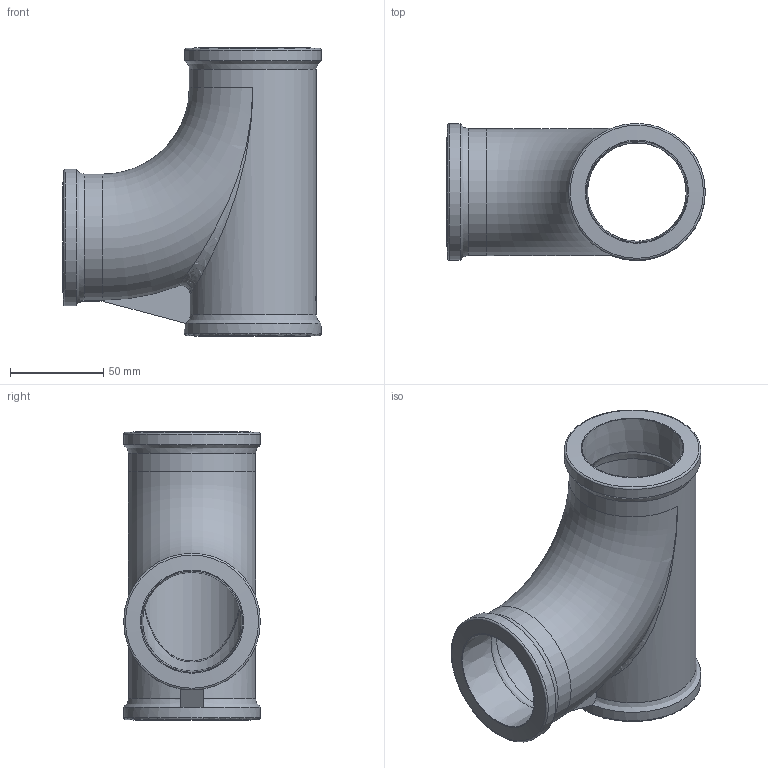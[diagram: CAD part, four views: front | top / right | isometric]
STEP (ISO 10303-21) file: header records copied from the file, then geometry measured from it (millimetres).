
FILE_DESCRIPTION((''),'2;1');
FILE_NAME('P:\Fastrack\53909_CRANE\Crane\Fig.199 Pitcher Tee\New 2.00 inch\199-2.00.stp','2009-09-17T10:46:42',('btaylor'),(''),'Autodesk Inventor 2008','Autodesk Inventor 2008','');
FILE_SCHEMA(('AUTOMOTIVE_DESIGN { 1 0 10303 214 1 1 1 1 }'));
Length unit declared in the file: millimetre
Products named in the file (1): 199-2.00
Bounding box: 138.7 x 73.4 x 155 mm (x, y, z)
Volume: 250269.8 mm3; surface area: 93080.1 mm2
Topology: 1 solids, 1 shells, 60 faces, 172 edges, 114 vertices
Faces by surface type: bspline 22, plane 17, cylinder 10, cone 6, torus 5
Full cylindrical faces by diameter (mm): 68.2 x1, 73.4 x3
Entity records: 4650 total; most frequent: CARTESIAN_POINT 3254, ORIENTED_EDGE 294, DIRECTION 242, EDGE_CURVE 147, VERTEX_POINT 108, AXIS2_PLACEMENT_3D 106, EDGE_LOOP 83, FACE_OUTER_BOUND 60
